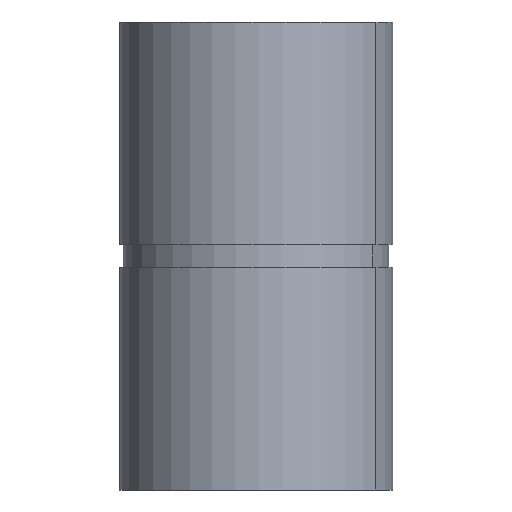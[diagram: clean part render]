
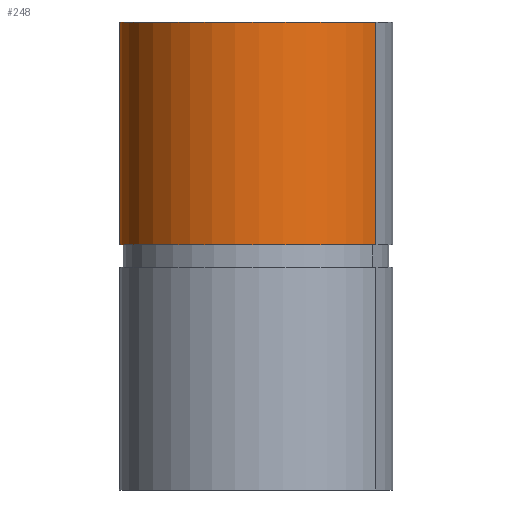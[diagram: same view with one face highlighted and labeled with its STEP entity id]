
A CAD part, left-side view. The second image highlights one B-rep face of the part: STEP entity #248.
In plain terms, the highlighted cylindrical face has radius 36.5 mm (diameter 73 mm), a partial arc.
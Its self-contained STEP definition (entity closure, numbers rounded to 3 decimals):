
#132=CARTESIAN_POINT('Vertex',(17.499,32.032,0.)) ;
#134=CARTESIAN_POINT('Vertex',(-17.499,-32.032,0.)) ;
#137=CARTESIAN_POINT('Axis2P3D Location',(0.,0.,0.)) ;
#206=CARTESIAN_POINT('Line Origine',(17.499,32.032,-62.5)) ;
#210=CARTESIAN_POINT('Vertex',(17.499,32.032,-59.5)) ;
#213=CARTESIAN_POINT('Line Origine',(-17.499,-32.032,-62.5)) ;
#217=CARTESIAN_POINT('Vertex',(-17.499,-32.032,-59.5)) ;
#232=CARTESIAN_POINT('Axis2P3D Location',(0.,0.,-62.5)) ;
#237=CARTESIAN_POINT('Axis2P3D Location',(0.,0.,-59.5)) ;
#138=DIRECTION('Axis2P3D Direction',(0.,0.,-1.)) ;
#207=DIRECTION('Vector Direction',(0.,0.,-1.)) ;
#214=DIRECTION('Vector Direction',(0.,0.,-1.)) ;
#233=DIRECTION('Axis2P3D Direction',(-0.,0.,-1.)) ;
#234=DIRECTION('Axis2P3D XDirection',(-0.479,-0.878,0.)) ;
#238=DIRECTION('Axis2P3D Direction',(-0.,0.,-1.)) ;
#139=AXIS2_PLACEMENT_3D('Circle Axis2P3D',#137,#138,$) ;
#235=AXIS2_PLACEMENT_3D('Cylinder Axis2P3D',#232,#233,#234) ;
#239=AXIS2_PLACEMENT_3D('Circle Axis2P3D',#237,#238,$) ;
#243=ORIENTED_EDGE('',*,*,#219,.T.) ;
#244=ORIENTED_EDGE('',*,*,#141,.T.) ;
#245=ORIENTED_EDGE('',*,*,#212,.F.) ;
#246=ORIENTED_EDGE('',*,*,#241,.F.) ;
#208=VECTOR('Line Direction',#207,1.) ;
#215=VECTOR('Line Direction',#214,1.) ;
#248=ADVANCED_FACE('PartBody',(#247),#236,.T.) ;
#140=CIRCLE('generated circle',#139,36.5) ;
#240=CIRCLE('generated circle',#239,36.5) ;
#236=CYLINDRICAL_SURFACE('generated cylinder',#235,36.5) ;
#141=EDGE_CURVE('',#135,#133,#140,.T.) ;
#212=EDGE_CURVE('',#211,#133,#209,.F.) ;
#219=EDGE_CURVE('',#218,#135,#216,.F.) ;
#241=EDGE_CURVE('',#218,#211,#240,.T.) ;
#242=EDGE_LOOP('',(#243,#244,#245,#246)) ;
#247=FACE_OUTER_BOUND('',#242,.T.) ;
#209=LINE('Line',#206,#208) ;
#216=LINE('Line',#213,#215) ;
#133=VERTEX_POINT('',#132) ;
#135=VERTEX_POINT('',#134) ;
#211=VERTEX_POINT('',#210) ;
#218=VERTEX_POINT('',#217) ;
